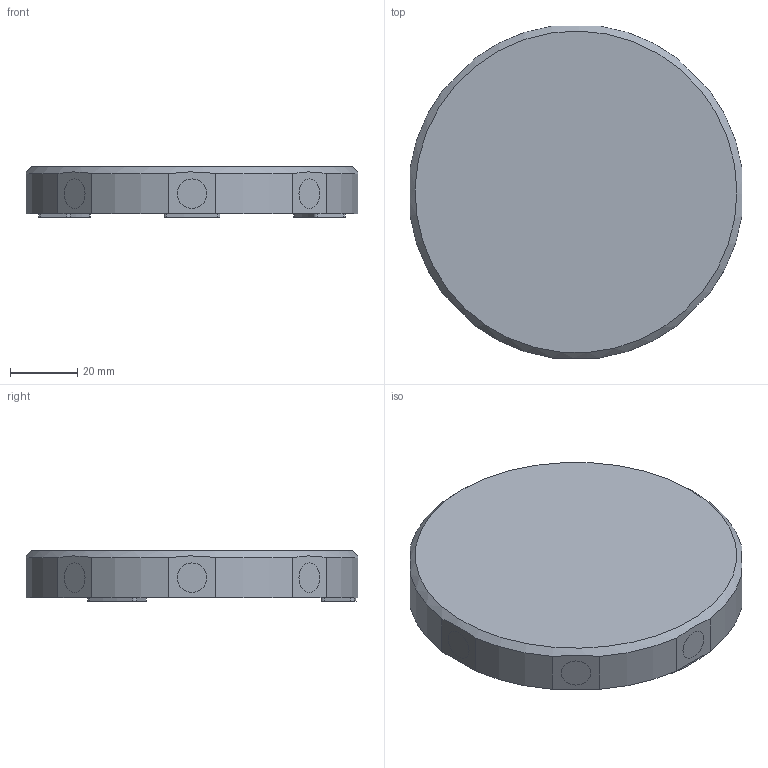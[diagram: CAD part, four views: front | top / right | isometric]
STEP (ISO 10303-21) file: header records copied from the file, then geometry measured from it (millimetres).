
FILE_DESCRIPTION(/* description */ (''),/* implementation_level */ '2;1');
FILE_NAME(/* name */ 'LM-3060-4546-A_UCT BASE.stp',/* time_stamp */ '2026-03-17T14:49:06Z',/* author */ (''),/* organization */ (''),/* preprocessor_version */ 'ST-DEVELOPER v20',/* originating_system */ 'SIEMENS PLM Software NX2312.9162',/* authorisation */ '');
FILE_SCHEMA (('AUTOMOTIVE_DESIGN { 1 0 10303 214 3 1 1 1 }'));
Length unit declared in the file: millimetre
Products named in the file (1): LM-3060-4546_objects
Bounding box: 99 x 99 x 15 mm (x, y, z)
Volume: 109333.1 mm3; surface area: 19822 mm2
Topology: 1 solids, 1 shells, 54 faces, 131 edges, 90 vertices
Faces by surface type: plane 27, cylinder 26, cone 1
Entity records: 1703 total; most frequent: CARTESIAN_POINT 297, DIRECTION 292, ORIENTED_EDGE 258, EDGE_CURVE 129, AXIS2_PLACEMENT_3D 116, VERTEX_POINT 89, EDGE_LOOP 66, CIRCLE 61
